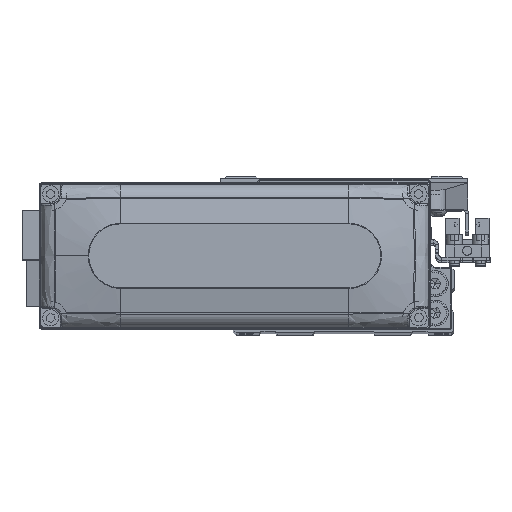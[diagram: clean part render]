
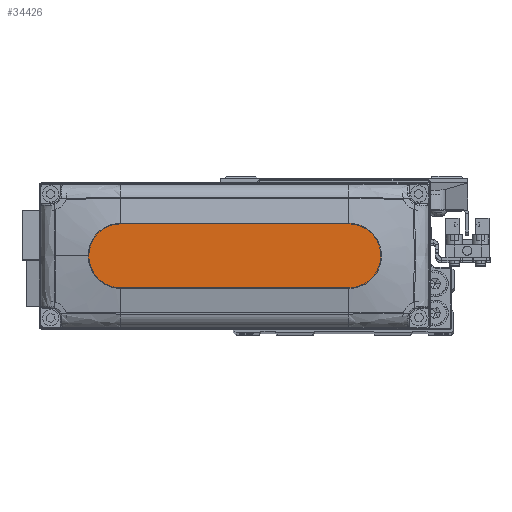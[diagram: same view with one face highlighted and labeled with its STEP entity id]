
A CAD part, top view. The second image highlights one B-rep face of the part: STEP entity #34426.
In plain terms, the highlighted planar face has unit normal (0, 0, 1).
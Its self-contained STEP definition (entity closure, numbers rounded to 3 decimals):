
#1577 = CARTESIAN_POINT ( 'NONE',  ( -35., 10., 28. ) ) ;
#2229 = CARTESIAN_POINT ( 'NONE',  ( 35., 0., 28. ) ) ;
#2575 = DIRECTION ( 'NONE',  ( 0., 0., 1. ) ) ;
#5801 = EDGE_CURVE ( 'NONE', #23854, #10291, #14933, .T. ) ;
#5959 = FACE_OUTER_BOUND ( 'NONE', #13475, .T. ) ;
#7458 = CIRCLE ( 'NONE', #32607, 10. ) ;
#8736 = VECTOR ( 'NONE', #42280, 1000. ) ;
#10291 = VERTEX_POINT ( 'NONE', #19947 ) ;
#10605 = EDGE_CURVE ( 'NONE', #25171, #42308, #32440, .T. ) ;
#11622 = CARTESIAN_POINT ( 'NONE',  ( -35., 10., 28. ) ) ;
#13475 = EDGE_LOOP ( 'NONE', ( #28430, #32390, #29816, #28286, #36200 ) ) ;
#14029 = CARTESIAN_POINT ( 'NONE',  ( 35., 0., 28. ) ) ;
#14714 = CIRCLE ( 'NONE', #39782, 10. ) ;
#14864 = CARTESIAN_POINT ( 'NONE',  ( 45., 0., 28. ) ) ;
#14933 = LINE ( 'NONE', #28634, #8736 ) ;
#15386 = DIRECTION ( 'NONE',  ( -1., 0., 0. ) ) ;
#15566 = EDGE_CURVE ( 'NONE', #42308, #23854, #14714, .T. ) ;
#16029 = DIRECTION ( 'NONE',  ( 0., 0., 1. ) ) ;
#16374 = DIRECTION ( 'NONE',  ( 1., 0., 0. ) ) ;
#16880 = CARTESIAN_POINT ( 'NONE',  ( -35., 0., 28. ) ) ;
#19743 = PLANE ( 'NONE',  #19827 ) ;
#19827 = AXIS2_PLACEMENT_3D ( 'NONE', #33437, #2575, #16374 ) ;
#19947 = CARTESIAN_POINT ( 'NONE',  ( 35., -10., 28. ) ) ;
#22688 = AXIS2_PLACEMENT_3D ( 'NONE', #2229, #16029, #29722 ) ;
#23854 = VERTEX_POINT ( 'NONE', #33670 ) ;
#25171 = VERTEX_POINT ( 'NONE', #37241 ) ;
#27746 = DIRECTION ( 'NONE',  ( 0., 0., 1. ) ) ;
#28286 = ORIENTED_EDGE ( 'NONE', *, *, #38401, .T. ) ;
#28430 = ORIENTED_EDGE ( 'NONE', *, *, #10605, .T. ) ;
#28634 = CARTESIAN_POINT ( 'NONE',  ( -35., -10., 28. ) ) ;
#29722 = DIRECTION ( 'NONE',  ( 1., 0., 0. ) ) ;
#29816 = ORIENTED_EDGE ( 'NONE', *, *, #5801, .T. ) ;
#30574 = DIRECTION ( 'NONE',  ( 0., 0., 1. ) ) ;
#32390 = ORIENTED_EDGE ( 'NONE', *, *, #15566, .T. ) ;
#32440 = LINE ( 'NONE', #1577, #44381 ) ;
#32522 = VERTEX_POINT ( 'NONE', #14864 ) ;
#32607 = AXIS2_PLACEMENT_3D ( 'NONE', #14029, #27746, #41406 ) ;
#33177 = EDGE_CURVE ( 'NONE', #32522, #25171, #7458, .T. ) ;
#33437 = CARTESIAN_POINT ( 'NONE',  ( 0., 0., 28. ) ) ;
#33670 = CARTESIAN_POINT ( 'NONE',  ( -35., -10., 28. ) ) ;
#34426 = ADVANCED_FACE ( 'NONE', ( #5959 ), #19743, .T. ) ;
#36200 = ORIENTED_EDGE ( 'NONE', *, *, #33177, .T. ) ;
#37241 = CARTESIAN_POINT ( 'NONE',  ( 35., 10., 28. ) ) ;
#38401 = EDGE_CURVE ( 'NONE', #10291, #32522, #42011, .T. ) ;
#39782 = AXIS2_PLACEMENT_3D ( 'NONE', #16880, #30574, #44238 ) ;
#41406 = DIRECTION ( 'NONE',  ( 1., 0., 0. ) ) ;
#42011 = CIRCLE ( 'NONE', #22688, 10. ) ;
#42280 = DIRECTION ( 'NONE',  ( 1., 0., 0. ) ) ;
#42308 = VERTEX_POINT ( 'NONE', #11622 ) ;
#44238 = DIRECTION ( 'NONE',  ( 1., 0., 0. ) ) ;
#44381 = VECTOR ( 'NONE', #15386, 1000. ) ;
